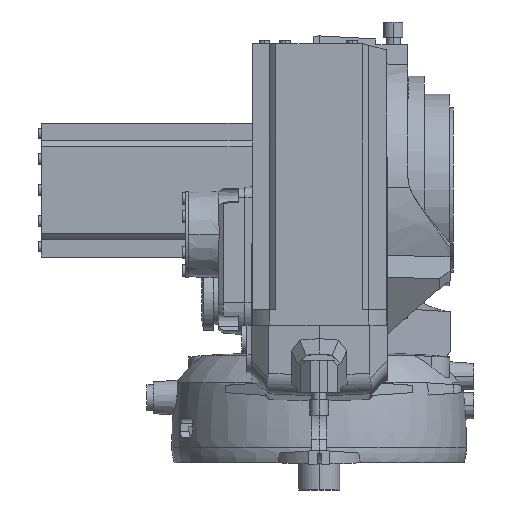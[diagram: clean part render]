
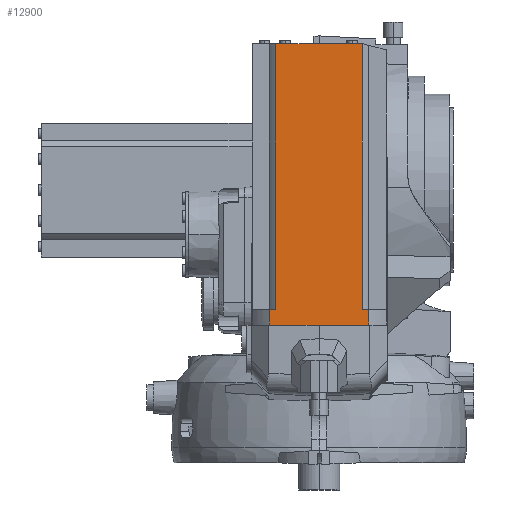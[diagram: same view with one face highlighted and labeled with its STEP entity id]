
A CAD part, left-side view. The second image highlights one B-rep face of the part: STEP entity #12900.
In plain terms, the highlighted planar face has unit normal (-1, 0, 0).
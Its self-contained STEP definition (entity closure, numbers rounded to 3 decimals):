
#282 = CARTESIAN_POINT ( 'NONE',  ( -199., 0., 314. ) ) ;
#685 = VERTEX_POINT ( 'NONE', #49755 ) ;
#777 = DIRECTION ( 'NONE',  ( 0., 0., -1. ) ) ;
#1637 = DIRECTION ( 'NONE',  ( 1., 0., 0. ) ) ;
#2382 = AXIS2_PLACEMENT_3D ( 'NONE', #24618, #1637, #28548 ) ;
#3075 = VECTOR ( 'NONE', #15751, 1000. ) ;
#3448 = CARTESIAN_POINT ( 'NONE',  ( -199., 0., 329. ) ) ;
#5083 = CARTESIAN_POINT ( 'NONE',  ( -199., -48.332, 321.5 ) ) ;
#9096 = PLANE ( 'NONE',  #2382 ) ;
#9745 = VERTEX_POINT ( 'NONE', #21802 ) ;
#9878 = CARTESIAN_POINT ( 'NONE',  ( -199., 48.332, 321.5 ) ) ;
#10290 = LINE ( 'NONE', #37347, #29505 ) ;
#10298 = EDGE_CURVE ( 'NONE', #9745, #39241, #32117, .T. ) ;
#11219 = DIRECTION ( 'NONE',  ( 0., -1., 0. ) ) ;
#11433 = CARTESIAN_POINT ( 'NONE',  ( -199., -42., 329. ) ) ;
#12297 = CARTESIAN_POINT ( 'NONE',  ( -199., -42., 450.5 ) ) ;
#12900 = ADVANCED_FACE ( 'NONE', ( #41267 ), #9096, .F. ) ;
#14105 = EDGE_CURVE ( 'NONE', #39241, #15274, #35053, .T. ) ;
#15274 = VERTEX_POINT ( 'NONE', #11433 ) ;
#15751 = DIRECTION ( 'NONE',  ( 0., 0., 1. ) ) ;
#15789 = EDGE_CURVE ( 'NONE', #15274, #28383, #28962, .T. ) ;
#16343 = EDGE_CURVE ( 'NONE', #21328, #29270, #40996, .T. ) ;
#20591 = EDGE_CURVE ( 'NONE', #21328, #28383, #45434, .T. ) ;
#21163 = DIRECTION ( 'NONE',  ( 0., -1., 0. ) ) ;
#21328 = VERTEX_POINT ( 'NONE', #26488 ) ;
#21802 = CARTESIAN_POINT ( 'NONE',  ( -199., 42., 587. ) ) ;
#22199 = ORIENTED_EDGE ( 'NONE', *, *, #16343, .F. ) ;
#22915 = ORIENTED_EDGE ( 'NONE', *, *, #10298, .F. ) ;
#24618 = CARTESIAN_POINT ( 'NONE',  ( -199., 48.332, 314. ) ) ;
#24650 = LINE ( 'NONE', #38802, #3075 ) ;
#24801 = VECTOR ( 'NONE', #777, 1000. ) ;
#24962 = LINE ( 'NONE', #9878, #45533 ) ;
#26488 = CARTESIAN_POINT ( 'NONE',  ( -199., -48.332, 314. ) ) ;
#28383 = VERTEX_POINT ( 'NONE', #45900 ) ;
#28478 = EDGE_CURVE ( 'NONE', #685, #9745, #24650, .T. ) ;
#28548 = DIRECTION ( 'NONE',  ( 0., 0., 1. ) ) ;
#28962 = LINE ( 'NONE', #3448, #48248 ) ;
#29270 = VERTEX_POINT ( 'NONE', #37602 ) ;
#29505 = VECTOR ( 'NONE', #41257, 1000. ) ;
#30350 = ORIENTED_EDGE ( 'NONE', *, *, #20591, .T. ) ;
#31257 = ORIENTED_EDGE ( 'NONE', *, *, #42048, .F. ) ;
#31972 = DIRECTION ( 'NONE',  ( 0., 0., 1. ) ) ;
#32117 = LINE ( 'NONE', #41135, #41200 ) ;
#32880 = DIRECTION ( 'NONE',  ( 0., 0., -1. ) ) ;
#34762 = EDGE_LOOP ( 'NONE', ( #43520, #43028, #22915, #37515, #31257, #40581, #22199, #30350 ) ) ;
#35053 = LINE ( 'NONE', #12297, #24801 ) ;
#37347 = CARTESIAN_POINT ( 'NONE',  ( -199., 53.5, 329. ) ) ;
#37515 = ORIENTED_EDGE ( 'NONE', *, *, #28478, .F. ) ;
#37602 = CARTESIAN_POINT ( 'NONE',  ( -199., 48.332, 314. ) ) ;
#38802 = CARTESIAN_POINT ( 'NONE',  ( -199., 42., 450.5 ) ) ;
#38820 = DIRECTION ( 'NONE',  ( 0., 1., 0. ) ) ;
#39241 = VERTEX_POINT ( 'NONE', #42835 ) ;
#39388 = CARTESIAN_POINT ( 'NONE',  ( -199., 48.332, 329. ) ) ;
#39513 = EDGE_CURVE ( 'NONE', #41114, #29270, #24962, .T. ) ;
#39750 = VECTOR ( 'NONE', #38820, 1000. ) ;
#40581 = ORIENTED_EDGE ( 'NONE', *, *, #39513, .T. ) ;
#40996 = LINE ( 'NONE', #282, #39750 ) ;
#41114 = VERTEX_POINT ( 'NONE', #39388 ) ;
#41135 = CARTESIAN_POINT ( 'NONE',  ( -199., 11.5, 587. ) ) ;
#41200 = VECTOR ( 'NONE', #21163, 1000. ) ;
#41257 = DIRECTION ( 'NONE',  ( 0., -1., 0. ) ) ;
#41267 = FACE_OUTER_BOUND ( 'NONE', #34762, .T. ) ;
#42048 = EDGE_CURVE ( 'NONE', #41114, #685, #10290, .T. ) ;
#42835 = CARTESIAN_POINT ( 'NONE',  ( -199., -42., 587. ) ) ;
#43028 = ORIENTED_EDGE ( 'NONE', *, *, #14105, .F. ) ;
#43520 = ORIENTED_EDGE ( 'NONE', *, *, #15789, .F. ) ;
#44213 = VECTOR ( 'NONE', #31972, 1000. ) ;
#45434 = LINE ( 'NONE', #5083, #44213 ) ;
#45533 = VECTOR ( 'NONE', #32880, 1000. ) ;
#45900 = CARTESIAN_POINT ( 'NONE',  ( -199., -48.332, 329. ) ) ;
#48248 = VECTOR ( 'NONE', #11219, 1000. ) ;
#49755 = CARTESIAN_POINT ( 'NONE',  ( -199., 42., 329. ) ) ;
